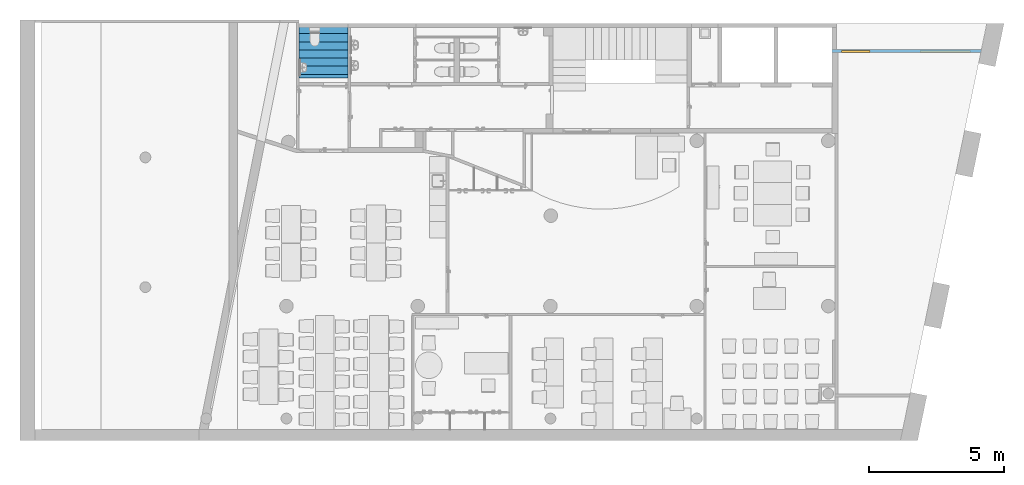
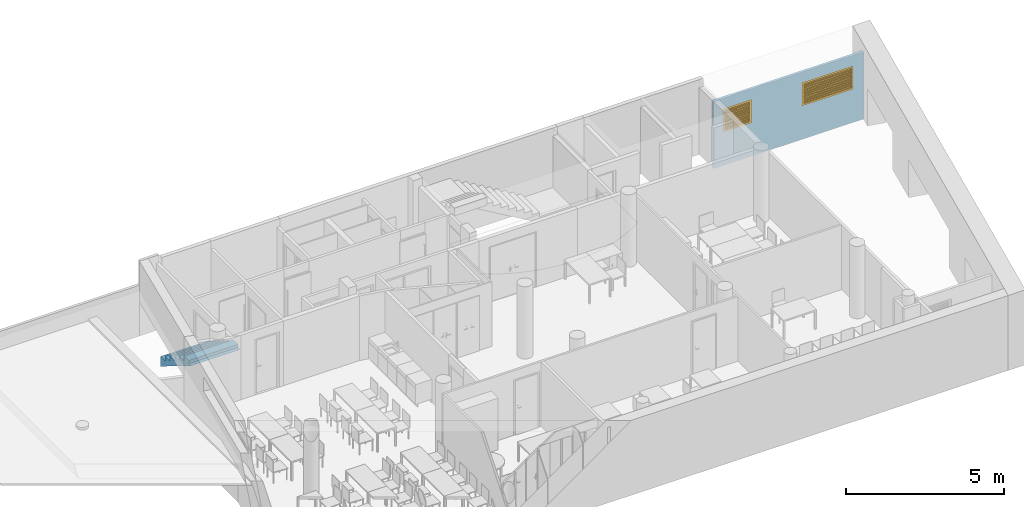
"""IFC4 building model written with IfcOpenShell, lengths in metres."""

import ifcopenshell
import ifcopenshell.guid

model = None  # the IFC model being written
_history = None  # IfcOwnerHistory: only IFC2X3 demands one
_inside = {}  # id of a spatial element -> (the spatial element, [elements in it])
_under = {}  # id of a project, library or spatial element -> (it, [spatial elements below it])
_declared = {}  # id of a project -> (the project, [libraries it declares])
_typed = {}  # id of a type object -> (the type object, [elements of that type])
_made_of = {}  # id of a material, layer set ... -> (it, [elements and type objects made of it])


def new_model(schema):
    """Start an empty IFC model of exactly this schema.

    Asked for "IFC4X3", IfcOpenShell would pick the latest addendum, in which some entities
    have other attributes; the version numbers below select the first issue.
    IFC2X3 requires an IfcOwnerHistory on every rooted entity: one is made here for all.
    """
    global model, _history
    if schema == "IFC4X3":
        model = ifcopenshell.file(schema_version=(4, 3, 0, 0))
    else:
        model = ifcopenshell.file(schema=schema)
    _inside.clear()
    _under.clear()
    _declared.clear()
    _typed.clear()
    _made_of.clear()
    _history = None
    if model.schema == "IFC2X3":
        org = make("IfcOrganization", Name="unknown")
        user = make(
            "IfcPersonAndOrganization",
            ThePerson=make("IfcPerson", FamilyName="unknown"),
            TheOrganization=org,
        )
        app = make(
            "IfcApplication",
            ApplicationDeveloper=org,
            Version="unknown",
            ApplicationFullName="unknown",
            ApplicationIdentifier="unknown",
        )
        _history = make(
            "IfcOwnerHistory",
            OwningUser=user,
            OwningApplication=app,
            ChangeAction="ADDED",
            CreationDate=0,
        )
    return model


def make(cls, **values):
    """One entity of the class cls with the attributes given. An attribute that is None is left unset."""
    return model.create_entity(
        cls, **{name: value for name, value in values.items() if value is not None}
    )


def entity(cls, *values):
    """Any entity or typed value of the class cls, its attributes in the order of the schema. None: left unset."""
    e = model.create_entity(cls)
    for i, value in enumerate(values):
        if value is not None:
            e[i] = value
    return e


def rooted(cls, **values):
    """An entity with a GlobalId (a new one), such as an element, a storey or a relation."""
    return make(cls, GlobalId=ifcopenshell.guid.new(), OwnerHistory=_history, **values)


def si_unit(unit_type, name, prefix=None):
    """IfcSIUnit, for example si_unit("LENGTHUNIT", "METRE", prefix="MILLI")."""
    return make("IfcSIUnit", UnitType=unit_type, Prefix=prefix, Name=name)


def converted_unit(unit_type, name, factor, base, dimensions=None, offset=None):
    """IfcConversionBasedUnit, such as the inch: factor (a typed value) times the base unit."""
    return make(
        "IfcConversionBasedUnit"
        if offset is None
        else "IfcConversionBasedUnitWithOffset",
        ConversionOffset=offset,
        Dimensions=None
        if dimensions is None
        else entity("IfcDimensionalExponents", *dimensions),
        UnitType=unit_type,
        Name=name,
        ConversionFactor=make(
            "IfcMeasureWithUnit", ValueComponent=factor, UnitComponent=base
        ),
    )


def derived_unit(unit_type, elements):
    """IfcDerivedUnit: a product of units, each with its exponent."""
    return make(
        "IfcDerivedUnit",
        Elements=[
            make("IfcDerivedUnitElement", Unit=unit, Exponent=power)
            for unit, power in elements
        ],
        UnitType=unit_type,
    )


def assignment(units):
    """IfcUnitAssignment: the units of a project."""
    return None if units is None else make("IfcUnitAssignment", Units=units)


def point(xyz):
    """IfcCartesianPoint."""
    return None if xyz is None else make("IfcCartesianPoint", Coordinates=xyz)


def direction(xyz):
    """IfcDirection."""
    return None if xyz is None else make("IfcDirection", DirectionRatios=xyz)


def frame(location, z_axis=None, x_axis=None):
    """IfcAxis2Placement3D, a coordinate frame: its origin and axes. An axis left out is left unset."""
    return make(
        "IfcAxis2Placement3D",
        Location=point(location),
        Axis=direction(z_axis),
        RefDirection=direction(x_axis),
    )


def origin():
    """The frame at (0, 0, 0) with its axes left unset."""
    return frame((0.0, 0.0, 0.0))


def origin_with_axes():
    """The frame at (0, 0, 0) with the z axis (0, 0, 1) and the x axis (1, 0, 0) written out."""
    return frame((0.0, 0.0, 0.0), z_axis=(0.0, 0.0, 1.0), x_axis=(1.0, 0.0, 0.0))


def place(relative_to, where):
    """IfcLocalPlacement: puts the frame where relative to a parent placement (None: the world)."""
    return make(
        "IfcLocalPlacement", PlacementRelTo=relative_to, RelativePlacement=where
    )


def context(
    kind, dimensions, precision=None, world=None, true_north=None, identifier=None
):
    """IfcGeometricRepresentationContext, for example the 3D "Model" context."""
    return make(
        "IfcGeometricRepresentationContext",
        ContextIdentifier=identifier,
        ContextType=kind,
        CoordinateSpaceDimension=dimensions,
        Precision=precision,
        WorldCoordinateSystem=world,
        TrueNorth=true_north,
    )


def subcontext(parent, identifier, kind, view, scale=None):
    """IfcGeometricRepresentationSubContext, for example "Body" below "Model"."""
    return make(
        "IfcGeometricRepresentationSubContext",
        ContextIdentifier=identifier,
        ContextType=kind,
        ParentContext=parent,
        TargetScale=scale,
        TargetView=view,
    )


def project(units=None, contexts=None):
    """IfcProject with its units and contexts."""
    return rooted(
        "IfcProject",
        Name="project",
        RepresentationContexts=contexts,
        UnitsInContext=assignment(units),
    )


def spatial(cls, under=None, at=None, **own):
    """A site, building, storey or space (cls), placed at a placement, below another one or the project."""
    s = rooted(cls, ObjectPlacement=at, **own)
    if under is not None:
        _under.setdefault(under.id(), (under, []))[1].append(s)
    return s


def polyline(points):
    """IfcPolyline through the points."""
    return make("IfcPolyline", Points=[point(p) for p in points])


def outline(outer, holes=None, kind="AREA"):
    """IfcArbitraryClosedProfileDef: a profile drawn as a closed curve; with holes, ...WithVoids."""
    if holes is None:
        return make("IfcArbitraryClosedProfileDef", ProfileType=kind, OuterCurve=outer)
    return make(
        "IfcArbitraryProfileDefWithVoids",
        ProfileType=kind,
        OuterCurve=outer,
        InnerCurves=holes,
    )


def extrude(swept, where, along, depth):
    """IfcExtrudedAreaSolid: the profile swept, set in the frame where, extruded along a direction by depth."""
    return make(
        "IfcExtrudedAreaSolid",
        SweptArea=swept,
        Position=where,
        ExtrudedDirection=direction(along),
        Depth=depth,
    )


def faces_of(points, faces, orient=None, outer=None):
    """IfcFace entities. A face is a list of loops; a loop is a list of indices into points, from 0.

    orient and outer hold one flag for each loop. By default every Orientation is true, the
    first loop of a face is its IfcFaceOuterBound and the others are IfcFaceBound.
    """
    made = []
    for i, loops in enumerate(faces):
        bounds = []
        for j, loop in enumerate(loops):
            is_outer = j == 0 if outer is None else outer[i][j]
            bounds.append(
                make(
                    "IfcFaceOuterBound" if is_outer else "IfcFaceBound",
                    Bound=make("IfcPolyLoop", Polygon=[points[k] for k in loop]),
                    Orientation=True if orient is None else orient[i][j],
                )
            )
        made.append(make("IfcFace", Bounds=bounds))
    return made


def closed_shell(faces, orient=None, outer=None):
    """The faces of one IfcClosedShell. faceted_brep and surface_model build it on their shared points."""
    return ("IfcClosedShell", faces, orient, outer)


def open_shell(faces, orient=None, outer=None):
    """The faces of one IfcOpenShell. surface_model builds it on its shared points."""
    return ("IfcOpenShell", faces, orient, outer)


def faceted_brep(points, faces, orient=None, outer=None, voids=None):
    """IfcFacetedBrep: a solid bounded by flat faces; with voids (closed shells), ...WithVoids."""
    shared = [point(p) for p in points]
    hull = make("IfcClosedShell", CfsFaces=faces_of(shared, faces, orient, outer))
    if voids is None:
        return make("IfcFacetedBrep", Outer=hull)
    return make(
        "IfcFacetedBrepWithVoids",
        Outer=hull,
        Voids=[
            make(cls, CfsFaces=faces_of(shared, fs, o, b)) for cls, fs, o, b in voids
        ],
    )


def surface_model(cls, points, shells):
    """IfcFaceBasedSurfaceModel or IfcShellBasedSurfaceModel (cls): surfaces that need not close."""
    shared = [point(p) for p in points]
    made = [make(c, CfsFaces=faces_of(shared, fs, o, b)) for c, fs, o, b in shells]
    if cls == "IfcFaceBasedSurfaceModel":
        return make(cls, FbsmFaces=made)
    return make(cls, SbsmBoundary=made)


def shape(context_of_items, identifier, shape_type, items):
    """IfcShapeRepresentation: the items that make up one representation, for example the "Body"."""
    return make(
        "IfcShapeRepresentation",
        ContextOfItems=context_of_items,
        RepresentationIdentifier=identifier,
        RepresentationType=shape_type,
        Items=items,
    )


def source(mapping_origin, context_of_items, identifier, shape_type, items):
    """IfcRepresentationMap: a shape defined once, which mapped items show again and again."""
    return make(
        "IfcRepresentationMap",
        MappingOrigin=mapping_origin,
        MappedRepresentation=shape(context_of_items, identifier, shape_type, items),
    )


def transform(
    local_origin,
    x_axis=None,
    y_axis=None,
    z_axis=None,
    scale=None,
    scale2=None,
    scale3=None,
    uniform=True,
):
    """IfcCartesianTransformationOperator3D, or its non-uniform kind. x_axis, y_axis, z_axis: its Axis1, 2, 3."""
    if uniform:
        return make(
            "IfcCartesianTransformationOperator3D",
            Axis1=direction(x_axis),
            Axis2=direction(y_axis),
            LocalOrigin=point(local_origin),
            Scale=scale,
            Axis3=direction(z_axis),
        )
    return make(
        "IfcCartesianTransformationOperator3DnonUniform",
        Axis1=direction(x_axis),
        Axis2=direction(y_axis),
        LocalOrigin=point(local_origin),
        Scale=scale,
        Axis3=direction(z_axis),
        Scale2=scale2,
        Scale3=scale3,
    )


def mapped(mapping_source, mapping_target):
    """IfcMappedItem: shows the shape of a source again, moved by a transform."""
    return make(
        "IfcMappedItem", MappingSource=mapping_source, MappingTarget=mapping_target
    )


def material(Name=None, Category=None):
    """IfcMaterial."""
    return make("IfcMaterial", Name=Name, Category=Category)


def layer(
    of_material, thickness, ventilated=None, Name=None, Category=None, Priority=None
):
    """IfcMaterialLayer: one layer of a wall or slab, of a material (None: an air gap)."""
    return make(
        "IfcMaterialLayer",
        Material=of_material,
        LayerThickness=thickness,
        IsVentilated=ventilated,
        Name=Name,
        Category=Category,
        Priority=Priority,
    )


def layer_set(layers, Name=None):
    """IfcMaterialLayerSet."""
    return make("IfcMaterialLayerSet", MaterialLayers=layers, LayerSetName=Name)


def layer_usage(for_layer_set, set_direction, sense, offset, extent=None):
    """IfcMaterialLayerSetUsage: how a layer set lies in its element."""
    return make(
        "IfcMaterialLayerSetUsage",
        ForLayerSet=for_layer_set,
        LayerSetDirection=set_direction,
        DirectionSense=sense,
        OffsetFromReferenceLine=offset,
        ReferenceExtent=extent,
    )


def made_of(thing, what):
    """Note that an element or type object is made of a material, layer set ...; save() writes the relation."""
    if what is not None:
        _made_of.setdefault(what.id(), (what, []))[1].append(thing)
    return thing


def type_object(cls, material=None, **own):
    """A type object (cls), such as IfcWallType, which elements share."""
    return made_of(rooted(cls, **own), material)


def element(
    cls,
    number,
    at=None,
    inside=None,
    cuts=None,
    type_object=None,
    material=None,
    context=None,
    identifier="Body",
    shape_type=None,
    held_by="IfcProductDefinitionShape",
    body=None,
    shapes=None,
    **own,
):
    """One element of the class cls, such as IfcWall. Its Tag is "e" and its number.

    at: its placement. inside: the storey or other place that contains it. cuts: it is an
    opening in that element (IfcRelVoidsElement). A single representation is given by context,
    identifier, shape_type and body (its items); several are given by shapes. held_by: the class
    of the entity that holds the representations. save() writes the other relations.
    """
    e = rooted(cls, Tag="e%d" % number, ObjectPlacement=at, **own)
    if body is not None:
        shapes = [shape(context, identifier, shape_type, body)]
    if shapes is not None:
        e.Representation = make(held_by, Representations=shapes)
    if inside is not None:
        _inside.setdefault(inside.id(), (inside, []))[1].append(e)
    if cuts is not None:
        rooted(
            "IfcRelVoidsElement", RelatingBuildingElement=cuts, RelatedOpeningElement=e
        )
    if type_object is not None:
        _typed.setdefault(type_object.id(), (type_object, []))[1].append(e)
    return made_of(e, material)


def fill(opening, filler):
    """IfcRelFillsElement: the door or window that sits in an opening."""
    return rooted(
        "IfcRelFillsElement",
        RelatingOpeningElement=opening,
        RelatedBuildingElement=filler,
    )


def aggregate(whole, parts):
    """IfcRelAggregates: a whole, such as a stair, and the parts it consists of."""
    return rooted("IfcRelAggregates", RelatingObject=whole, RelatedObjects=parts)


def save(model, path):
    """Write the relations noted so far, then the file.

    IfcRelAggregates (storeys below a building ...), IfcRelContainedInSpatialStructure (elements
    in a storey), IfcRelDefinesByType, IfcRelAssociatesMaterial and IfcRelDeclares: one each for
    every whole, place, type object, material and project.
    """
    for whole, parts in _under.values():
        aggregate(whole, parts)
    for where, things in _inside.values():
        rooted(
            "IfcRelContainedInSpatialStructure",
            RelatedElements=things,
            RelatingStructure=where,
        )
    for kind, things in _typed.values():
        rooted("IfcRelDefinesByType", RelatedObjects=things, RelatingType=kind)
    for what, things in _made_of.values():
        rooted("IfcRelAssociatesMaterial", RelatedObjects=things, RelatingMaterial=what)
    for by, libraries in _declared.values():
        rooted("IfcRelDeclares", RelatingContext=by, RelatedDefinitions=libraries)
    model.write(path)


model = new_model("IFC4")

# Units and contexts
model_context = context("Model", 3, precision=1e-05, world=origin())
body_context = subcontext(model_context, "Body", "Model", "MODEL_VIEW")
ifc_project = project(units=[si_unit("LENGTHUNIT", "METRE"), si_unit("AREAUNIT", "SQUARE_METRE"), si_unit("VOLUMEUNIT", "CUBIC_METRE"), si_unit("MASSUNIT", "GRAM", prefix="KILO"), converted_unit("PLANEANGLEUNIT", "DEGREE", entity("IfcPlaneAngleMeasure", 0.0174532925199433), si_unit("PLANEANGLEUNIT", "RADIAN"), dimensions=[0, 0, 0, 0, 0, 0, 0]), derived_unit("THERMALTRANSMITTANCEUNIT", [(si_unit("POWERUNIT", "WATT"), 1), (si_unit("THERMODYNAMICTEMPERATUREUNIT", "KELVIN"), -1), (si_unit("LENGTHUNIT", "METRE"), -2)]), derived_unit("VOLUMETRICFLOWRATEUNIT", [(si_unit("LENGTHUNIT", "METRE"), 3), (converted_unit("TIMEUNIT", "hour", entity("IfcTimeMeasure", 3600.0), si_unit("TIMEUNIT", "SECOND"), dimensions=[0, 0, 1, 0, 0, 0, 0]), -1), (si_unit("LENGTHUNIT", "METRE"), -1)])], contexts=[model_context])

# Building, storeys
building_placement = place(None, origin())
building = spatial("IfcBuilding", under=ifc_project, at=building_placement, Name="HABITATGE PLURIFAMILIAR", CompositionType="ELEMENT")
storey_1_placement = place(building_placement, frame((0.0, 0.0, 3.35)))
storey_1 = spatial("IfcBuildingStorey", under=building, at=storey_1_placement, Name="PLANTA  ALTELL", CompositionType="ELEMENT", Elevation=3.35)
storey_2_placement = place(storey_1_placement, origin())
storey_2 = spatial("IfcBuildingStorey", under=storey_1, at=storey_2_placement, Name="NOU", CompositionType="PARTIAL")

# Wall, openings, doors
ifc_material = material()
ifc_layer = layer(ifc_material, 0.1)
ifc_layer_set = layer_set([ifc_layer])
ifc_layer_usage = layer_usage(ifc_layer_set, "AXIS2", "POSITIVE", 0.0)
wall_placement = place(storey_2_placement, frame((426.647652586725, 27.2695914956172, -0.1), z_axis=(0.0, 0.0, 1.0), x_axis=(-1.0, 0.0, 0.0)))
wall = element("IfcWall", 1, at=wall_placement, inside=storey_2, material=ifc_layer_usage, Name="Evans PA", context=body_context, shape_type="SweptSolid", body=[
    extrude(outline(polyline([(-5.51090262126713, -0.1), (-7.31715117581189e-08, -0.1), (0.0, 0.0), (-5.49017839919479, 0.0), (-5.51090262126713, -0.1)])), frame((5.51090262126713, 0.1, 0.0), z_axis=(0.0, 0.0, 1.0), x_axis=(1.0, 0.0, 0.0)), (0.0, 0.0, 1.0), 2.6),
])
opening_1_placement = place(wall_placement, frame((5.16778326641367, 0.1, 1.3), z_axis=(0.0, -1.0, 0.0), x_axis=(0.0, 0.0, 1.0)))
opening_1 = element("IfcOpeningElement", 2, at=opening_1_placement, cuts=wall, Name="Vano dei finestra PA", ObjectType="Opening", context=body_context, shape_type="SweptSolid", body=[
    extrude(outline(polyline([(0.9, 1.04746529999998), (0.9, 0.0), (0.0, 0.0), (0.0, 1.04746529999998), (0.9, 1.04746529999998)])), origin_with_axes(), (0.0, 0.0, 1.0), 0.1),
])
opening_2_placement = place(wall_placement, frame((2.26191189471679, 0.1, 1.3), z_axis=(0.0, -1.0, 0.0), x_axis=(0.0, 0.0, 1.0)))
opening_2 = element("IfcOpeningElement", 3, at=opening_2_placement, cuts=wall, Name="Vano dei finestra PA", ObjectType="Opening", context=body_context, shape_type="SweptSolid", body=[
    extrude(outline(polyline([(0.9, 1.86659639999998), (0.9, 0.0), (0.0, 0.0), (0.0, 1.86659639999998), (0.9, 1.86659639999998)])), origin_with_axes(), (0.0, 0.0, 1.0), 0.1),
])
door_type_1 = type_object("IfcDoorType", Name="Reixeta de ventilació PA", OperationType="NOTDEFINED", ParameterTakesPrecedence=False, PredefinedType="DOOR")
shared_shape_1 = source(origin_with_axes(), body_context, "Body", "SurfaceModel", [
    surface_model("IfcShellBasedSurfaceModel", [(0.0, 0.0700000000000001, 0.9), (0.0, 0.07, 0.0), (0.07, 0.07, 0.0), (0.07, 0.0700000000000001, 0.9), (0.0, 0.0, 0.0), (0.0, 0.0, 0.9), (0.07, 0.0, 0.9), (0.07, 0.0, 0.0)], [closed_shell([[[0, 1, 2, 3]], [[4, 5, 6, 7]], [[1, 0, 5, 4]], [[2, 1, 4, 7]], [[3, 2, 7, 6]], [[0, 3, 6, 5]]], orient=[[False], [False], [False], [False], [False], [False]])]),
    surface_model("IfcShellBasedSurfaceModel", [(0.977465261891, 0.0700000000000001, 0.9), (0.977465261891, 0.07, 0.0), (1.047465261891, 0.07, 0.0), (1.047465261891, 0.0700000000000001, 0.9), (0.977465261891, 0.0, 0.0), (0.977465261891, 0.0, 0.9), (1.047465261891, 0.0, 0.9), (1.047465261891, 0.0, 0.0)], [closed_shell([[[0, 1, 2, 3]], [[4, 5, 6, 7]], [[1, 0, 5, 4]], [[2, 1, 4, 7]], [[3, 2, 7, 6]], [[0, 3, 6, 5]]], orient=[[False], [False], [False], [False], [False], [False]])]),
    surface_model("IfcShellBasedSurfaceModel", [(0.07, 0.07, 0.07), (0.07, 0.07, 0.0), (0.977465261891, 0.07, 0.0), (0.977465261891, 0.07, 0.07), (0.07, 0.0, 0.0), (0.07, 0.0, 0.07), (0.977465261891, 0.0, 0.07), (0.977465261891, 0.0, 0.0)], [closed_shell([[[0, 1, 2, 3]], [[4, 5, 6, 7]], [[1, 0, 5, 4]], [[2, 1, 4, 7]], [[3, 2, 7, 6]], [[0, 3, 6, 5]]], orient=[[False], [False], [False], [False], [False], [False]])]),
    surface_model("IfcShellBasedSurfaceModel", [(0.07, 0.0700000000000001, 0.9), (0.07, 0.0700000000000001, 0.83), (0.977465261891, 0.0700000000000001, 0.83), (0.977465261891, 0.0700000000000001, 0.9), (0.07, 0.0, 0.83), (0.07, 0.0, 0.9), (0.977465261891, 0.0, 0.9), (0.977465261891, 0.0, 0.83)], [closed_shell([[[0, 1, 2, 3]], [[4, 5, 6, 7]], [[1, 0, 5, 4]], [[2, 1, 4, 7]], [[3, 2, 7, 6]], [[0, 3, 6, 5]]], orient=[[False], [False], [False], [False], [False], [False]])]),
    surface_model("IfcShellBasedSurfaceModel", [(0.07, 0.07, 0.155555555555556), (0.07, 0.07, 0.145555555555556), (0.977465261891, 0.07, 0.145555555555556), (0.977465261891, 0.07, 0.155555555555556), (0.07, 0.0, 0.145555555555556), (0.07, 0.0, 0.155555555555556), (0.977465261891, 0.0, 0.155555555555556), (0.977465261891, 0.0, 0.145555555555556)], [closed_shell([[[0, 1, 2, 3]], [[4, 5, 6, 7]], [[1, 0, 5, 4]], [[2, 1, 4, 7]], [[3, 2, 7, 6]], [[0, 3, 6, 5]]], orient=[[False], [False], [False], [False], [False], [False]])]),
    surface_model("IfcShellBasedSurfaceModel", [(0.07, 0.07, 0.241111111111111), (0.07, 0.07, 0.231111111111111), (0.977465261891, 0.07, 0.231111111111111), (0.977465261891, 0.07, 0.241111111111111), (0.07, 0.0, 0.231111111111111), (0.07, 0.0, 0.241111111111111), (0.977465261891, 0.0, 0.241111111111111), (0.977465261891, 0.0, 0.231111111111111)], [closed_shell([[[0, 1, 2, 3]], [[4, 5, 6, 7]], [[1, 0, 5, 4]], [[2, 1, 4, 7]], [[3, 2, 7, 6]], [[0, 3, 6, 5]]], orient=[[False], [False], [False], [False], [False], [False]])]),
    surface_model("IfcShellBasedSurfaceModel", [(0.07, 0.07, 0.326666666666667), (0.07, 0.07, 0.316666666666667), (0.977465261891, 0.07, 0.316666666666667), (0.977465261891, 0.07, 0.326666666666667), (0.07, 0.0, 0.316666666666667), (0.07, 0.0, 0.326666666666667), (0.977465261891, 0.0, 0.326666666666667), (0.977465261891, 0.0, 0.316666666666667)], [closed_shell([[[0, 1, 2, 3]], [[4, 5, 6, 7]], [[1, 0, 5, 4]], [[2, 1, 4, 7]], [[3, 2, 7, 6]], [[0, 3, 6, 5]]], orient=[[False], [False], [False], [False], [False], [False]])]),
    surface_model("IfcShellBasedSurfaceModel", [(0.07, 0.07, 0.412222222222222), (0.07, 0.07, 0.402222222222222), (0.977465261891, 0.07, 0.402222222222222), (0.977465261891, 0.07, 0.412222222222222), (0.07, 0.0, 0.402222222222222), (0.07, 0.0, 0.412222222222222), (0.977465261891, 0.0, 0.412222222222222), (0.977465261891, 0.0, 0.402222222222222)], [closed_shell([[[0, 1, 2, 3]], [[4, 5, 6, 7]], [[1, 0, 5, 4]], [[2, 1, 4, 7]], [[3, 2, 7, 6]], [[0, 3, 6, 5]]], orient=[[False], [False], [False], [False], [False], [False]])]),
    surface_model("IfcShellBasedSurfaceModel", [(0.07, 0.07, 0.497777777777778), (0.07, 0.07, 0.487777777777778), (0.977465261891, 0.07, 0.487777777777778), (0.977465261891, 0.07, 0.497777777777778), (0.07, 0.0, 0.487777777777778), (0.07, 0.0, 0.497777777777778), (0.977465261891, 0.0, 0.497777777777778), (0.977465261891, 0.0, 0.487777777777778)], [closed_shell([[[0, 1, 2, 3]], [[4, 5, 6, 7]], [[1, 0, 5, 4]], [[2, 1, 4, 7]], [[3, 2, 7, 6]], [[0, 3, 6, 5]]], orient=[[False], [False], [False], [False], [False], [False]])]),
    surface_model("IfcShellBasedSurfaceModel", [(0.07, 0.07, 0.583333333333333), (0.07, 0.07, 0.573333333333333), (0.977465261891, 0.07, 0.573333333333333), (0.977465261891, 0.07, 0.583333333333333), (0.07, 0.0, 0.573333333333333), (0.07, 0.0, 0.583333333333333), (0.977465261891, 0.0, 0.583333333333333), (0.977465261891, 0.0, 0.573333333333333)], [closed_shell([[[0, 1, 2, 3]], [[4, 5, 6, 7]], [[1, 0, 5, 4]], [[2, 1, 4, 7]], [[3, 2, 7, 6]], [[0, 3, 6, 5]]], orient=[[False], [False], [False], [False], [False], [False]])]),
    surface_model("IfcShellBasedSurfaceModel", [(0.07, 0.0700000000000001, 0.668888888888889), (0.07, 0.0700000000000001, 0.658888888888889), (0.977465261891, 0.0700000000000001, 0.658888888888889), (0.977465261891, 0.0700000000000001, 0.668888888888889), (0.07, 0.0, 0.658888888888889), (0.07, 0.0, 0.668888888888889), (0.977465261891, 0.0, 0.668888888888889), (0.977465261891, 0.0, 0.658888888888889)], [closed_shell([[[0, 1, 2, 3]], [[4, 5, 6, 7]], [[1, 0, 5, 4]], [[2, 1, 4, 7]], [[3, 2, 7, 6]], [[0, 3, 6, 5]]], orient=[[False], [False], [False], [False], [False], [False]])]),
    surface_model("IfcShellBasedSurfaceModel", [(0.07, 0.0700000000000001, 0.754444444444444), (0.07, 0.0700000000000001, 0.744444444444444), (0.977465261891, 0.0700000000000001, 0.744444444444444), (0.977465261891, 0.0700000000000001, 0.754444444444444), (0.07, 0.0, 0.744444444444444), (0.07, 0.0, 0.754444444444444), (0.977465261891, 0.0, 0.754444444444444), (0.977465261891, 0.0, 0.744444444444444)], [closed_shell([[[0, 1, 2, 3]], [[4, 5, 6, 7]], [[1, 0, 5, 4]], [[2, 1, 4, 7]], [[3, 2, 7, 6]], [[0, 3, 6, 5]]], orient=[[False], [False], [False], [False], [False], [False]])]),
    surface_model("IfcShellBasedSurfaceModel", [(0.07, 0.035, 0.07), (0.977465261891, 0.035, 0.07), (0.977465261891, 0.035, 0.145555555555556), (0.07, 0.035, 0.145555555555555), (0.07, 0.035, 0.155555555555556), (0.977465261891, 0.035, 0.155555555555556), (0.977465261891, 0.035, 0.231111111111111), (0.07, 0.035, 0.231111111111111), (0.07, 0.035, 0.241111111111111), (0.977465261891, 0.035, 0.241111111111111), (0.977465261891, 0.035, 0.316666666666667), (0.07, 0.035, 0.316666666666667), (0.07, 0.035, 0.326666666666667), (0.977465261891, 0.035, 0.326666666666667), (0.977465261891, 0.035, 0.402222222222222), (0.07, 0.035, 0.402222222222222), (0.07, 0.035, 0.412222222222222), (0.977465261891, 0.035, 0.412222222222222), (0.977465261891, 0.035, 0.487777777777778), (0.07, 0.035, 0.487777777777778), (0.07, 0.0350000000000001, 0.497777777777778), (0.977465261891, 0.0350000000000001, 0.497777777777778), (0.977465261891, 0.0350000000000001, 0.573333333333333), (0.07, 0.0350000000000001, 0.573333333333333), (0.07, 0.0350000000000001, 0.583333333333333), (0.977465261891, 0.0350000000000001, 0.583333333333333), (0.977465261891, 0.0350000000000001, 0.658888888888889), (0.07, 0.0350000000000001, 0.658888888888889), (0.07, 0.0350000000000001, 0.668888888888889), (0.977465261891, 0.0350000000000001, 0.668888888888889), (0.977465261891, 0.0350000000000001, 0.744444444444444), (0.07, 0.0350000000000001, 0.744444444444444), (0.07, 0.0350000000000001, 0.754444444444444), (0.977465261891, 0.0350000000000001, 0.754444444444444), (0.977465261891, 0.0350000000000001, 0.83), (0.07, 0.0350000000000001, 0.83)], [open_shell([[[0, 1, 2, 3]], [[4, 5, 6, 7]], [[8, 9, 10, 11]], [[12, 13, 14, 15]], [[16, 17, 18, 19]], [[20, 21, 22, 23]], [[24, 25, 26, 27]], [[28, 29, 30, 31]], [[32, 33, 34, 35]]], orient=[[False], [False], [False], [False], [False], [False], [False], [False], [False]])]),
])
door_1_placement = place(opening_1_placement, frame((0.0, 0.0, 0.07), z_axis=(1.0, 0.0, 0.0), x_axis=(0.0, 1.0000000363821, -1.22464684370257e-16)))
door_1 = element("IfcDoor", 4, at=door_1_placement, inside=storey_2, type_object=door_type_1, Name="Reixeta de ventilació PA", OverallHeight=0.9, OverallWidth=1.04747, context=body_context, shape_type="MappedRepresentation", body=[
    mapped(shared_shape_1, transform((0.0, 0.0, 0.0), x_axis=(1.0, 0.0, 0.0), y_axis=(0.0, -1.0, 0.0), z_axis=(0.0, 0.0, 1.0), scale=1.0000000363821)),
])
fill(opening_1, door_1)
door_type_2 = type_object("IfcDoorType", Name="Reixeta de ventilació PA", OperationType="NOTDEFINED", ParameterTakesPrecedence=False, PredefinedType="DOOR")
shared_shape_2 = source(origin_with_axes(), body_context, "Body", "SurfaceModel", [
    surface_model("IfcShellBasedSurfaceModel", [(0.0, 0.0700000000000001, 0.9), (0.0, 0.07, 0.0), (0.07, 0.07, 0.0), (0.07, 0.0700000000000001, 0.9), (0.0, 0.0, 0.0), (0.0, 0.0, 0.9), (0.07, 0.0, 0.9), (0.07, 0.0, 0.0)], [closed_shell([[[0, 1, 2, 3]], [[4, 5, 6, 7]], [[1, 0, 5, 4]], [[2, 1, 4, 7]], [[3, 2, 7, 6]], [[0, 3, 6, 5]]], orient=[[False], [False], [False], [False], [False], [False]])]),
    surface_model("IfcShellBasedSurfaceModel", [(1.796596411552, 0.0700000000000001, 0.9), (1.796596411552, 0.07, 0.0), (1.866596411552, 0.07, 0.0), (1.866596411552, 0.0700000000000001, 0.9), (1.796596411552, 0.0, 0.0), (1.796596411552, 0.0, 0.9), (1.866596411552, 0.0, 0.9), (1.866596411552, 0.0, 0.0)], [closed_shell([[[0, 1, 2, 3]], [[4, 5, 6, 7]], [[1, 0, 5, 4]], [[2, 1, 4, 7]], [[3, 2, 7, 6]], [[0, 3, 6, 5]]], orient=[[False], [False], [False], [False], [False], [False]])]),
    surface_model("IfcShellBasedSurfaceModel", [(0.07, 0.07, 0.07), (0.07, 0.07, 0.0), (1.796596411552, 0.07, 0.0), (1.796596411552, 0.07, 0.07), (0.07, 0.0, 0.0), (0.07, 0.0, 0.07), (1.796596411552, 0.0, 0.07), (1.796596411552, 0.0, 0.0)], [closed_shell([[[0, 1, 2, 3]], [[4, 5, 6, 7]], [[1, 0, 5, 4]], [[2, 1, 4, 7]], [[3, 2, 7, 6]], [[0, 3, 6, 5]]], orient=[[False], [False], [False], [False], [False], [False]])]),
    surface_model("IfcShellBasedSurfaceModel", [(0.07, 0.0700000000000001, 0.9), (0.07, 0.0700000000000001, 0.83), (1.796596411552, 0.0700000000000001, 0.83), (1.796596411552, 0.0700000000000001, 0.9), (0.07, 0.0, 0.83), (0.07, 0.0, 0.9), (1.796596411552, 0.0, 0.9), (1.796596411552, 0.0, 0.83)], [closed_shell([[[0, 1, 2, 3]], [[4, 5, 6, 7]], [[1, 0, 5, 4]], [[2, 1, 4, 7]], [[3, 2, 7, 6]], [[0, 3, 6, 5]]], orient=[[False], [False], [False], [False], [False], [False]])]),
    surface_model("IfcShellBasedSurfaceModel", [(0.07, 0.07, 0.155555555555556), (0.07, 0.07, 0.145555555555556), (1.796596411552, 0.07, 0.145555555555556), (1.796596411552, 0.07, 0.155555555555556), (0.07, 0.0, 0.145555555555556), (0.07, 0.0, 0.155555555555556), (1.796596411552, 0.0, 0.155555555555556), (1.796596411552, 0.0, 0.145555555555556)], [closed_shell([[[0, 1, 2, 3]], [[4, 5, 6, 7]], [[1, 0, 5, 4]], [[2, 1, 4, 7]], [[3, 2, 7, 6]], [[0, 3, 6, 5]]], orient=[[False], [False], [False], [False], [False], [False]])]),
    surface_model("IfcShellBasedSurfaceModel", [(0.07, 0.07, 0.241111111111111), (0.07, 0.07, 0.231111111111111), (1.796596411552, 0.07, 0.231111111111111), (1.796596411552, 0.07, 0.241111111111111), (0.07, 0.0, 0.231111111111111), (0.07, 0.0, 0.241111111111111), (1.796596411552, 0.0, 0.241111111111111), (1.796596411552, 0.0, 0.231111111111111)], [closed_shell([[[0, 1, 2, 3]], [[4, 5, 6, 7]], [[1, 0, 5, 4]], [[2, 1, 4, 7]], [[3, 2, 7, 6]], [[0, 3, 6, 5]]], orient=[[False], [False], [False], [False], [False], [False]])]),
    surface_model("IfcShellBasedSurfaceModel", [(0.07, 0.07, 0.326666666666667), (0.07, 0.07, 0.316666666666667), (1.796596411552, 0.07, 0.316666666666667), (1.796596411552, 0.07, 0.326666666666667), (0.07, 0.0, 0.316666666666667), (0.07, 0.0, 0.326666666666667), (1.796596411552, 0.0, 0.326666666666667), (1.796596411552, 0.0, 0.316666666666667)], [closed_shell([[[0, 1, 2, 3]], [[4, 5, 6, 7]], [[1, 0, 5, 4]], [[2, 1, 4, 7]], [[3, 2, 7, 6]], [[0, 3, 6, 5]]], orient=[[False], [False], [False], [False], [False], [False]])]),
    surface_model("IfcShellBasedSurfaceModel", [(0.07, 0.07, 0.412222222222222), (0.07, 0.07, 0.402222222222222), (1.796596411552, 0.07, 0.402222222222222), (1.796596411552, 0.07, 0.412222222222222), (0.07, 0.0, 0.402222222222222), (0.07, 0.0, 0.412222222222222), (1.796596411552, 0.0, 0.412222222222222), (1.796596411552, 0.0, 0.402222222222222)], [closed_shell([[[0, 1, 2, 3]], [[4, 5, 6, 7]], [[1, 0, 5, 4]], [[2, 1, 4, 7]], [[3, 2, 7, 6]], [[0, 3, 6, 5]]], orient=[[False], [False], [False], [False], [False], [False]])]),
    surface_model("IfcShellBasedSurfaceModel", [(0.07, 0.07, 0.497777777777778), (0.07, 0.07, 0.487777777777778), (1.796596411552, 0.07, 0.487777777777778), (1.796596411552, 0.07, 0.497777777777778), (0.07, 0.0, 0.487777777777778), (0.07, 0.0, 0.497777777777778), (1.796596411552, 0.0, 0.497777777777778), (1.796596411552, 0.0, 0.487777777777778)], [closed_shell([[[0, 1, 2, 3]], [[4, 5, 6, 7]], [[1, 0, 5, 4]], [[2, 1, 4, 7]], [[3, 2, 7, 6]], [[0, 3, 6, 5]]], orient=[[False], [False], [False], [False], [False], [False]])]),
    surface_model("IfcShellBasedSurfaceModel", [(0.07, 0.07, 0.583333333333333), (0.07, 0.07, 0.573333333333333), (1.796596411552, 0.07, 0.573333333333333), (1.796596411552, 0.07, 0.583333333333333), (0.07, 0.0, 0.573333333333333), (0.07, 0.0, 0.583333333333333), (1.796596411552, 0.0, 0.583333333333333), (1.796596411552, 0.0, 0.573333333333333)], [closed_shell([[[0, 1, 2, 3]], [[4, 5, 6, 7]], [[1, 0, 5, 4]], [[2, 1, 4, 7]], [[3, 2, 7, 6]], [[0, 3, 6, 5]]], orient=[[False], [False], [False], [False], [False], [False]])]),
    surface_model("IfcShellBasedSurfaceModel", [(0.07, 0.0700000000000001, 0.668888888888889), (0.07, 0.0700000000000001, 0.658888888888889), (1.796596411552, 0.0700000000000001, 0.658888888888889), (1.796596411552, 0.0700000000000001, 0.668888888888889), (0.07, 0.0, 0.658888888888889), (0.07, 0.0, 0.668888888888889), (1.796596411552, 0.0, 0.668888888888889), (1.796596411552, 0.0, 0.658888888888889)], [closed_shell([[[0, 1, 2, 3]], [[4, 5, 6, 7]], [[1, 0, 5, 4]], [[2, 1, 4, 7]], [[3, 2, 7, 6]], [[0, 3, 6, 5]]], orient=[[False], [False], [False], [False], [False], [False]])]),
    surface_model("IfcShellBasedSurfaceModel", [(0.07, 0.0700000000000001, 0.754444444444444), (0.07, 0.0700000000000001, 0.744444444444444), (1.796596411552, 0.0700000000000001, 0.744444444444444), (1.796596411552, 0.0700000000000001, 0.754444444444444), (0.07, 0.0, 0.744444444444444), (0.07, 0.0, 0.754444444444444), (1.796596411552, 0.0, 0.754444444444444), (1.796596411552, 0.0, 0.744444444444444)], [closed_shell([[[0, 1, 2, 3]], [[4, 5, 6, 7]], [[1, 0, 5, 4]], [[2, 1, 4, 7]], [[3, 2, 7, 6]], [[0, 3, 6, 5]]], orient=[[False], [False], [False], [False], [False], [False]])]),
    surface_model("IfcShellBasedSurfaceModel", [(0.07, 0.035, 0.07), (1.796596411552, 0.035, 0.07), (1.796596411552, 0.035, 0.145555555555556), (0.07, 0.035, 0.145555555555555), (0.07, 0.035, 0.155555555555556), (1.796596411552, 0.035, 0.155555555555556), (1.796596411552, 0.035, 0.231111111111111), (0.07, 0.035, 0.231111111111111), (0.07, 0.035, 0.241111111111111), (1.796596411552, 0.035, 0.241111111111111), (1.796596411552, 0.035, 0.316666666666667), (0.07, 0.035, 0.316666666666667), (0.07, 0.035, 0.326666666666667), (1.796596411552, 0.035, 0.326666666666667), (1.796596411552, 0.035, 0.402222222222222), (0.07, 0.035, 0.402222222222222), (0.07, 0.035, 0.412222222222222), (1.796596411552, 0.035, 0.412222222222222), (1.796596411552, 0.035, 0.487777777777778), (0.07, 0.035, 0.487777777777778), (0.07, 0.0350000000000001, 0.497777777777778), (1.796596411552, 0.0350000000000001, 0.497777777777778), (1.796596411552, 0.0350000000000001, 0.573333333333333), (0.07, 0.0350000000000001, 0.573333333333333), (0.07, 0.0350000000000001, 0.583333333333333), (1.796596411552, 0.0350000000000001, 0.583333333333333), (1.796596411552, 0.0350000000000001, 0.658888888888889), (0.07, 0.0350000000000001, 0.658888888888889), (0.07, 0.0350000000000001, 0.668888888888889), (1.796596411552, 0.0350000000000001, 0.668888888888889), (1.796596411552, 0.0350000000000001, 0.744444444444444), (0.07, 0.0350000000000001, 0.744444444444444), (0.07, 0.0350000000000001, 0.754444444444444), (1.796596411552, 0.0350000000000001, 0.754444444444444), (1.796596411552, 0.0350000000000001, 0.83), (0.07, 0.0350000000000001, 0.83)], [open_shell([[[0, 1, 2, 3]], [[4, 5, 6, 7]], [[8, 9, 10, 11]], [[12, 13, 14, 15]], [[16, 17, 18, 19]], [[20, 21, 22, 23]], [[24, 25, 26, 27]], [[28, 29, 30, 31]], [[32, 33, 34, 35]]], orient=[[False], [False], [False], [False], [False], [False], [False], [False], [False]])]),
])
door_2_placement = place(opening_2_placement, frame((0.0, 0.0, 0.07), z_axis=(1.0, 0.0, 0.0), x_axis=(0.0, 0.999999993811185, -1.22464679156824e-16)))
door_2 = element("IfcDoor", 5, at=door_2_placement, inside=storey_2, type_object=door_type_2, Name="Reixeta de ventilació PA", OverallHeight=0.9, OverallWidth=1.8666, context=body_context, shape_type="MappedRepresentation", body=[
    mapped(shared_shape_2, transform((0.0, 0.0, 0.0), x_axis=(1.0, 0.0, 0.0), y_axis=(0.0, -1.0, 0.0), z_axis=(0.0, 0.0, 1.0), scale=0.999999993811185)),
])
fill(opening_2, door_2)

# Stair
stair_placement = place(storey_2_placement, frame((401.454323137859, 26.2225367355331, -1.45986677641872)))
element("IfcStair", 6, at=stair_placement, inside=storey_2, Name="Escalera", PredefinedType="NOTDEFINED", context=body_context, shape_type="Brep", body=[
    faceted_brep([(0.0, 0.138246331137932, 1.31415249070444), (0.0, 0.438246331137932, 1.31415249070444), (1.8, 0.438246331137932, 1.31415249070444), (1.8, 0.138246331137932, 1.31415249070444), (0.0, 1.93824633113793, 0.0), (0.0, 1.93824633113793, 0.385581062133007), (0.0, 1.63824633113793, 0.385581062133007), (0.0, 1.63824633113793, 0.571295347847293), (0.0, 1.33824633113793, 0.571295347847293), (0.0, 1.33824633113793, 0.757009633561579), (0.0, 1.03824633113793, 0.757009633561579), (0.0, 1.03824633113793, 0.942723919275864), (0.0, 0.738246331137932, 0.942723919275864), (0.0, 0.738246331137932, 1.12843820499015), (0.0, 0.438246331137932, 1.12843820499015), (0.0, 0.138246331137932, 1.19986677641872), (0.0, 0.0, 1.19986677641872), (1.8, 0.438246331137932, 1.12843820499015), (1.8, 0.0, 1.19986677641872), (1.8, 0.138246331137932, 1.19986677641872), (1.8, 0.738246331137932, 1.12843820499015), (1.8, 0.738246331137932, 0.942723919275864), (1.8, 1.03824633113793, 0.942723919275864), (1.8, 1.03824633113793, 0.757009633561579), (1.8, 1.33824633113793, 0.757009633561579), (1.8, 1.33824633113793, 0.571295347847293), (1.8, 1.63824633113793, 0.571295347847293), (1.8, 1.63824633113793, 0.385581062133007), (1.8, 1.93824633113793, 0.385581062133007), (1.8, 1.93824633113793, 0.0)], [[[0, 1, 2, 3]], [[4, 5, 6, 7, 8, 9, 10, 11, 12, 13, 14, 1, 0, 15, 16]], [[1, 14, 17, 2]], [[18, 19, 3, 2, 17, 20, 21, 22, 23, 24, 25, 26, 27, 28, 29]], [[18, 29, 4, 16]], [[19, 18, 16, 15]], [[14, 13, 20, 17]], [[13, 12, 21, 20]], [[12, 11, 22, 21]], [[11, 10, 23, 22]], [[10, 9, 24, 23]], [[9, 8, 25, 24]], [[8, 7, 26, 25]], [[7, 6, 27, 26]], [[6, 5, 28, 27]], [[5, 4, 29, 28]], [[19, 15, 0, 3]]], orient=[[False], [False], [False], [False], [False], [False], [False], [False], [False], [False], [False], [False], [False], [False], [False], [False], [False]]),
])

save(model, "model.ifc")
